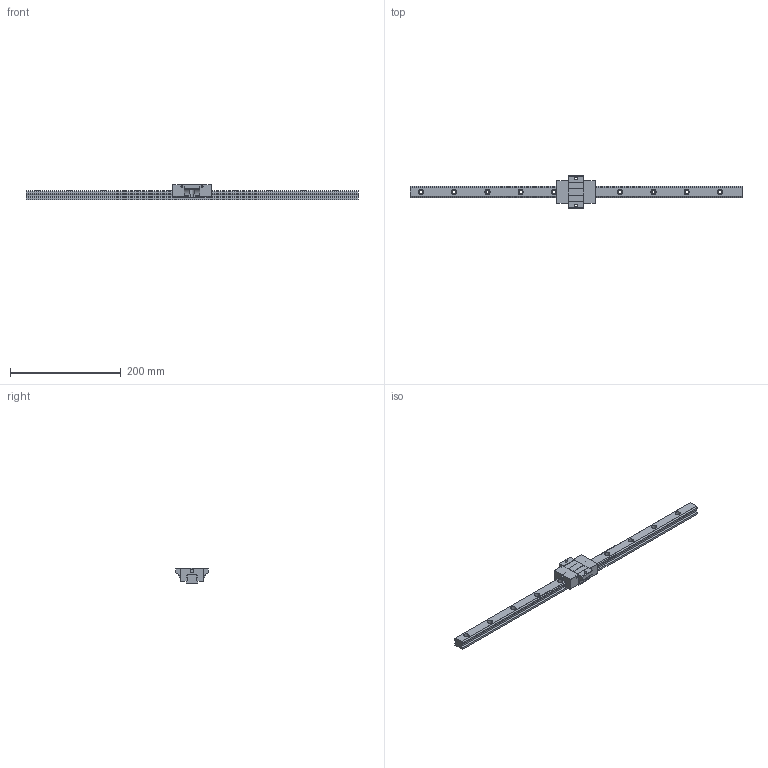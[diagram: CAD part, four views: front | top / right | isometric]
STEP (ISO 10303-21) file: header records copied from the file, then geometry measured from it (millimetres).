
FILE_DESCRIPTION (( 'STEP AP203' ), '1' );
FILE_NAME ('TRS20FS-WZ.STEP', '2024-05-22T02:56:28', ( '' ), ( '' ), 'SwSTEP 2.0', 'SolidWorks 2022', '' );
FILE_SCHEMA (( 'CONFIG_CONTROL_DESIGN' ));
Length unit declared in the file: millimetre
Products named in the file (1): TRS20FS-WZ
Bounding box: 600 x 59 x 28 mm (x, y, z)
Volume: 223825.9 mm3; surface area: 63610.9 mm2
Topology: 2 solids, 2 shells, 224 faces, 596 edges, 388 vertices
Faces by surface type: cylinder 116, plane 104, sphere 4
Entity records: 7263 total; most frequent: CARTESIAN_POINT 1421, DIRECTION 1238, ORIENTED_EDGE 1184, EDGE_CURVE 592, AXIS2_PLACEMENT_3D 441, VERTEX_POINT 388, LINE 356, VECTOR 356
